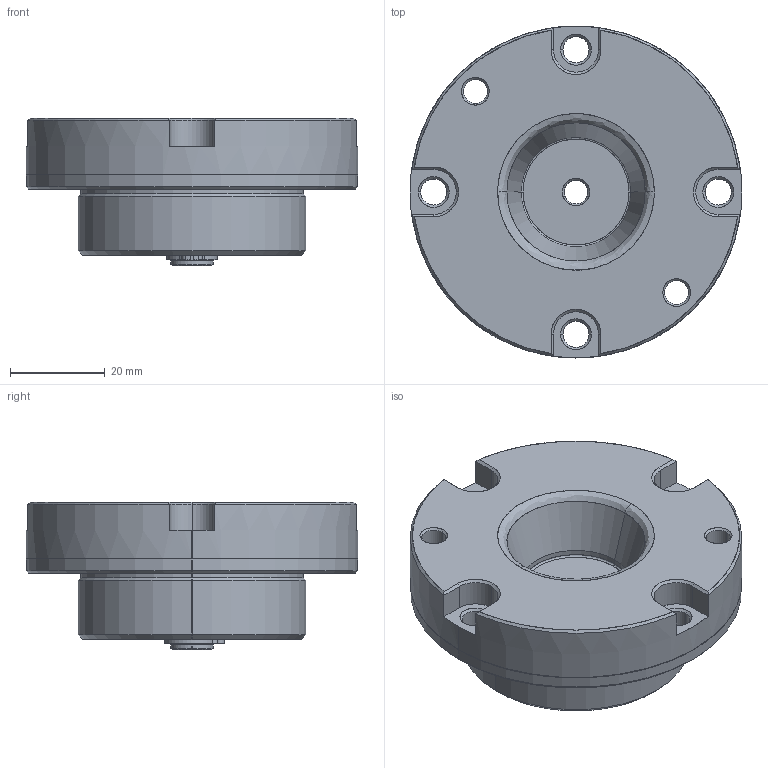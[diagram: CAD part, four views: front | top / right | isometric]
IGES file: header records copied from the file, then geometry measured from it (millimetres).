
Start section: SolidWorks IGES file using analytic representation for surfaces
Global section: file name: X:\11_SW2020-Inv2020\00_全2021-11新製品まで\c\CP725-38070\cp725-38070.IGS; native system: SolidWorks 2020; preprocessor: SolidWorks 2020; author: ImaoCorp; date: 211026.083852; units: millimetre
Bounding box: 70 x 70 x 31.2 mm (x, y, z)
Surface area: 20418.7 mm2 (no closed solid volume)
Topology: 0 solids, 0 shells, 162 faces, 2815 edges, 2815 vertices
Faces by surface type: revolution 105, bspline 57
